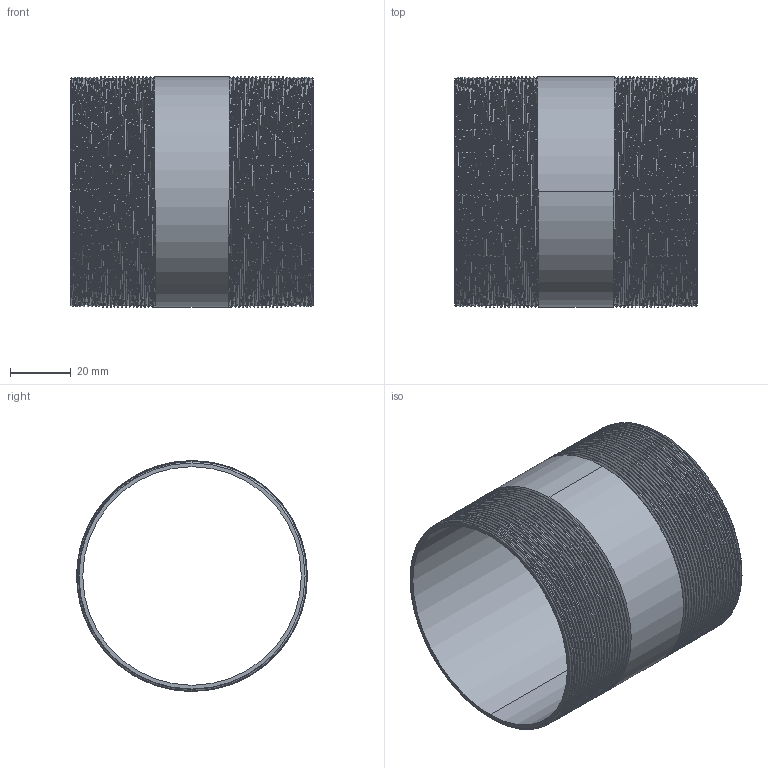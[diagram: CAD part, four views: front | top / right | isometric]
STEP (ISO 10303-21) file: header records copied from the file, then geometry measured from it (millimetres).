
FILE_DESCRIPTION (( 'STEP AP203' ), '1' );
FILE_NAME ('3D_R210_2 1-2x80_17148633.STEP', '2024-08-16T10:16:13', ( '' ), ( '' ), 'SwSTEP 2.0', 'SolidWorks 2024', '' );
FILE_SCHEMA (( 'CONFIG_CONTROL_DESIGN' ));
Length unit declared in the file: millimetre
Products named in the file (1): 3D_R210_2 1-2x80_17148633
Bounding box: 80 x 76.08 x 76.1 mm (x, y, z)
Volume: 31911.2 mm3; surface area: 44811.2 mm2
Topology: 1 solids, 1 shells, 106 faces, 306 edges, 202 vertices
Faces by surface type: cone 92, bspline 6, cylinder 4, plane 4
Entity records: 20059 total; most frequent: CARTESIAN_POINT 17595, ORIENTED_EDGE 612, DIRECTION 328, EDGE_CURVE 306, VERTEX_POINT 202, B_SPLINE_CURVE_WITH_KNOTS 184, AXIS2_PLACEMENT_3D 113, EDGE_LOOP 108
